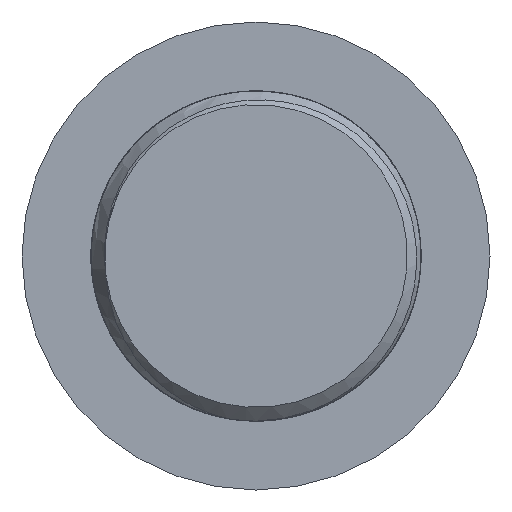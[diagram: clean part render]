
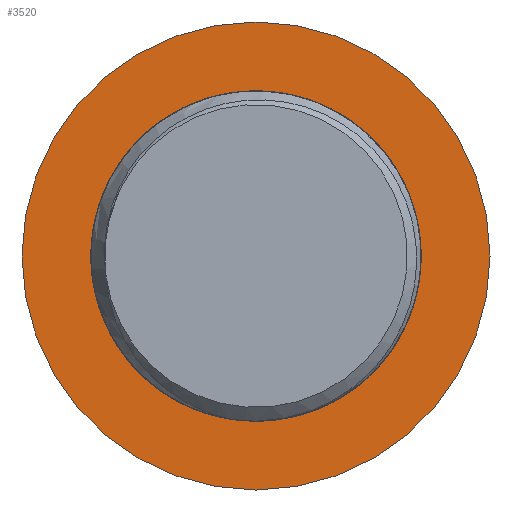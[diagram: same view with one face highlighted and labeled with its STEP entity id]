
A CAD part, front view. The second image highlights one B-rep face of the part: STEP entity #3520.
In plain terms, the highlighted planar face has unit normal (0, -1, 0).
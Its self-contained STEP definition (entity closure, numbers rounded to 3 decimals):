
#97=CARTESIAN_POINT('',(8.5,30.,0.0));
#98=VERTEX_POINT('',#97);
#99=CARTESIAN_POINT('',(0.0,30.,0.0));
#100=DIRECTION('',(0.0,-1.0,0.0));
#101=DIRECTION('',(1.0,0.0,0.0));
#102=AXIS2_PLACEMENT_3D('',#99,#100,#101);
#103=CIRCLE('',#102,8.5);
#104=EDGE_CURVE('',#98,#98,#103,.T.);
#3501=CARTESIAN_POINT('',(6.575,30.,0.0));
#3502=DIRECTION('',(0.0,-1.0,0.0));
#3503=DIRECTION('',(0.0,0.0,-1.0));
#3504=AXIS2_PLACEMENT_3D('',#3501,#3502,#3503);
#3505=PLANE('',#3504);
#3506=ORIENTED_EDGE('',*,*,#104,.T.);
#3507=EDGE_LOOP('',(#3506));
#3508=FACE_OUTER_BOUND('',#3507,.T.);
#3509=CARTESIAN_POINT('',(4.65,30.,0.0));
#3510=VERTEX_POINT('',#3509);
#3511=CARTESIAN_POINT('',(0.0,30.,0.0));
#3512=DIRECTION('',(0.0,-1.0,0.0));
#3513=DIRECTION('',(1.0,0.0,0.0));
#3514=AXIS2_PLACEMENT_3D('',#3511,#3512,#3513);
#3515=CIRCLE('',#3514,4.65);
#3516=EDGE_CURVE('',#3510,#3510,#3515,.T.);
#3517=ORIENTED_EDGE('',*,*,#3516,.F.);
#3518=EDGE_LOOP('',(#3517));
#3519=FACE_BOUND('',#3518,.T.);
#3520=ADVANCED_FACE('',(#3508,#3519),#3505,.T.);
